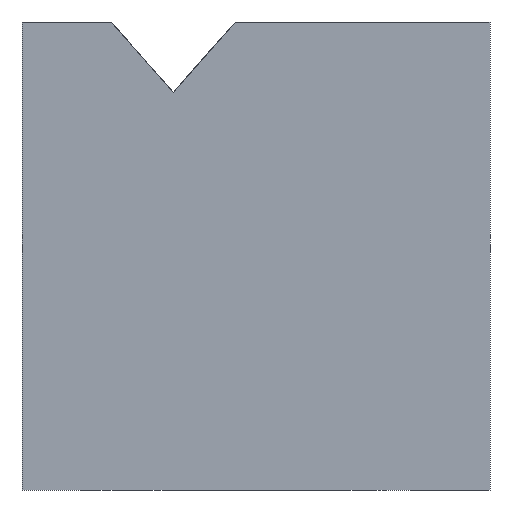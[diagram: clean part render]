
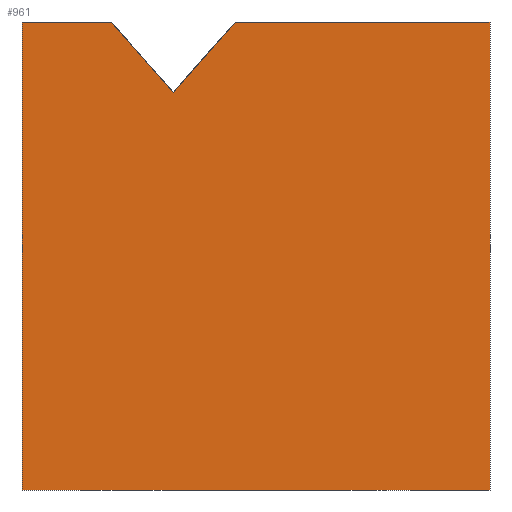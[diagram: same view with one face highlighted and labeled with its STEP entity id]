
A CAD part, front view. The second image highlights one B-rep face of the part: STEP entity #961.
In plain terms, the highlighted planar face has unit normal (0, -1, 0).
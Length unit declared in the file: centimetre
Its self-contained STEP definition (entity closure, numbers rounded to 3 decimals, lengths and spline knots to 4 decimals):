
#45 = LINE ( 'NONE', #901, #115 ) ;
#63 = VERTEX_POINT ( 'NONE', #647 ) ;
#97 = CARTESIAN_POINT ( 'NONE',  ( 0., 0., 1000. ) ) ;
#110 = VERTEX_POINT ( 'NONE', #510 ) ;
#115 = VECTOR ( 'NONE', #1224, 100. ) ;
#116 = CARTESIAN_POINT ( 'NONE',  ( 0., 0., 0. ) ) ;
#189 = VERTEX_POINT ( 'NONE', #1381 ) ;
#270 = FACE_OUTER_BOUND ( 'NONE', #809, .T. ) ;
#273 = VERTEX_POINT ( 'NONE', #694 ) ;
#292 = DIRECTION ( 'NONE',  ( 0., 0., -1. ) ) ;
#323 = ORIENTED_EDGE ( 'NONE', *, *, #989, .F. ) ;
#326 = AXIS2_PLACEMENT_3D ( 'NONE', #488, #1045, #481 ) ;
#331 = LINE ( 'NONE', #116, #464 ) ;
#337 = EDGE_CURVE ( 'NONE', #1068, #273, #844, .T. ) ;
#359 = EDGE_CURVE ( 'NONE', #1068, #949, #678, .T. ) ;
#379 = ORIENTED_EDGE ( 'NONE', *, *, #1151, .F. ) ;
#380 = CARTESIAN_POINT ( 'NONE',  ( 191.0949, 0., 1000. ) ) ;
#457 = DIRECTION ( 'NONE',  ( 1., 0., 0. ) ) ;
#464 = VECTOR ( 'NONE', #1067, 100. ) ;
#481 = DIRECTION ( 'NONE',  ( 0., 0., 1. ) ) ;
#488 = CARTESIAN_POINT ( 'NONE',  ( 0., 0., 1000. ) ) ;
#491 = VECTOR ( 'NONE', #604, 100. ) ;
#510 = CARTESIAN_POINT ( 'NONE',  ( 323.3434, 0., 849.4746 ) ) ;
#561 = VECTOR ( 'NONE', #292, 100. ) ;
#573 = LINE ( 'NONE', #791, #1350 ) ;
#598 = LINE ( 'NONE', #380, #1117 ) ;
#604 = DIRECTION ( 'NONE',  ( 0., 0., -1. ) ) ;
#610 = EDGE_CURVE ( 'NONE', #273, #189, #331, .T. ) ;
#633 = ORIENTED_EDGE ( 'NONE', *, *, #359, .F. ) ;
#647 = CARTESIAN_POINT ( 'NONE',  ( 455.5919, 0., 1000. ) ) ;
#678 = LINE ( 'NONE', #1205, #1378 ) ;
#694 = CARTESIAN_POINT ( 'NONE',  ( 0., 0., 0. ) ) ;
#704 = PLANE ( 'NONE',  #326 ) ;
#790 = ORIENTED_EDGE ( 'NONE', *, *, #610, .T. ) ;
#791 = CARTESIAN_POINT ( 'NONE',  ( 323.3434, 0., 849.4746 ) ) ;
#809 = EDGE_LOOP ( 'NONE', ( #904, #379, #323, #633, #1107, #790, #895 ) ) ;
#823 = CARTESIAN_POINT ( 'NONE',  ( 191.0949, 0., 1000. ) ) ;
#842 = VERTEX_POINT ( 'NONE', #884 ) ;
#844 = LINE ( 'NONE', #1265, #561 ) ;
#884 = CARTESIAN_POINT ( 'NONE',  ( 1000., 0., 1000. ) ) ;
#895 = ORIENTED_EDGE ( 'NONE', *, *, #1347, .F. ) ;
#901 = CARTESIAN_POINT ( 'NONE',  ( 0., 0., 1000. ) ) ;
#904 = ORIENTED_EDGE ( 'NONE', *, *, #1253, .F. ) ;
#949 = VERTEX_POINT ( 'NONE', #823 ) ;
#961 = ADVANCED_FACE ( 'NONE', ( #270 ), #704, .F. ) ;
#989 = EDGE_CURVE ( 'NONE', #949, #110, #598, .T. ) ;
#1041 = DIRECTION ( 'NONE',  ( 0.66, 0., -0.751 ) ) ;
#1045 = DIRECTION ( 'NONE',  ( 0., 1., 0. ) ) ;
#1067 = DIRECTION ( 'NONE',  ( 1., 0., 0. ) ) ;
#1068 = VERTEX_POINT ( 'NONE', #97 ) ;
#1107 = ORIENTED_EDGE ( 'NONE', *, *, #337, .T. ) ;
#1117 = VECTOR ( 'NONE', #1041, 100. ) ;
#1129 = LINE ( 'NONE', #1247, #491 ) ;
#1151 = EDGE_CURVE ( 'NONE', #110, #63, #573, .T. ) ;
#1205 = CARTESIAN_POINT ( 'NONE',  ( 0., 0., 1000. ) ) ;
#1224 = DIRECTION ( 'NONE',  ( 1., 0., 0. ) ) ;
#1247 = CARTESIAN_POINT ( 'NONE',  ( 1000., 0., 1000. ) ) ;
#1253 = EDGE_CURVE ( 'NONE', #63, #842, #45, .T. ) ;
#1265 = CARTESIAN_POINT ( 'NONE',  ( 0., 0., 1000. ) ) ;
#1316 = DIRECTION ( 'NONE',  ( 0.66, 0., 0.751 ) ) ;
#1347 = EDGE_CURVE ( 'NONE', #842, #189, #1129, .T. ) ;
#1350 = VECTOR ( 'NONE', #1316, 100. ) ;
#1378 = VECTOR ( 'NONE', #457, 100. ) ;
#1381 = CARTESIAN_POINT ( 'NONE',  ( 1000., 0., 0. ) ) ;
